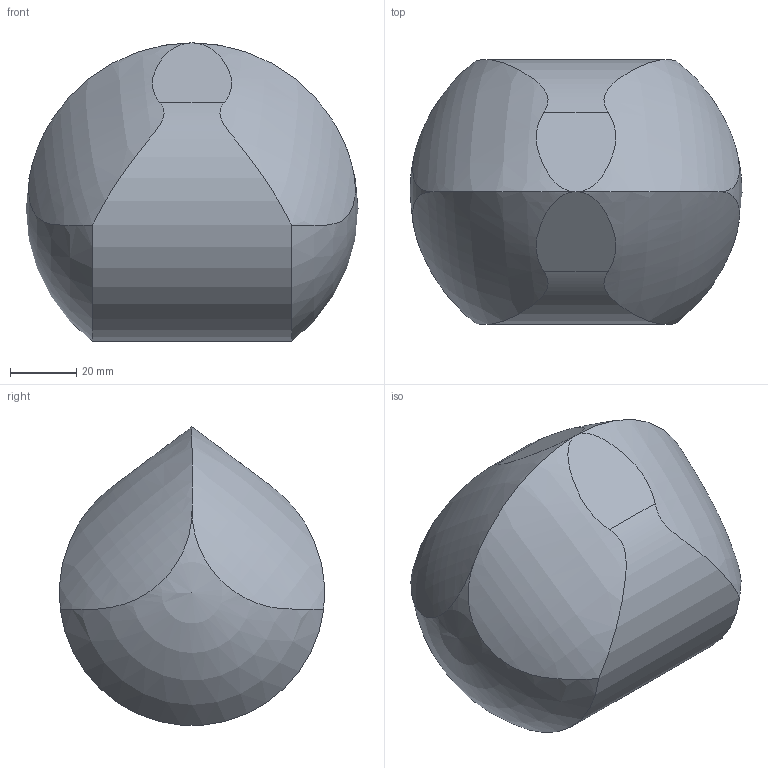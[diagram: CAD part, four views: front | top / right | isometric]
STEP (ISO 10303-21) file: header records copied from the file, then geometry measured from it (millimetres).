
FILE_DESCRIPTION(/* description */ (''),/* implementation_level */ '2;1');
FILE_NAME(/* name */ 'Gomboc_v1.step',/* time_stamp */ '2026-01-28T10:47:36+03:00',/* author */ (''),/* organization */ (''),/* preprocessor_version */ 'ST-DEVELOPER v20.1',/* originating_system */ 'Autodesk Translation Framework v14.24.0.0',/* authorisation */ '');
FILE_SCHEMA (('AUTOMOTIVE_DESIGN { 1 0 10303 214 3 1 1 }'));
Length unit declared in the file: metre
Products named in the file (1): (Unsaved)
Bounding box: 100 x 79.87 x 89.86 mm (x, y, z)
Volume: 388635.2 mm3; surface area: 26743 mm2
Topology: 1 solids, 1 shells, 9 faces, 26 edges, 17 vertices
Faces by surface type: bspline 4, sphere 2, plane 2, cylinder 1
Entity records: 3206 total; most frequent: CARTESIAN_POINT 2979, ORIENTED_EDGE 48, EDGE_CURVE 24, DIRECTION 22, B_SPLINE_CURVE_WITH_KNOTS 18, VERTEX_POINT 17, AXIS2_PLACEMENT_3D 10, FACE_OUTER_BOUND 9
